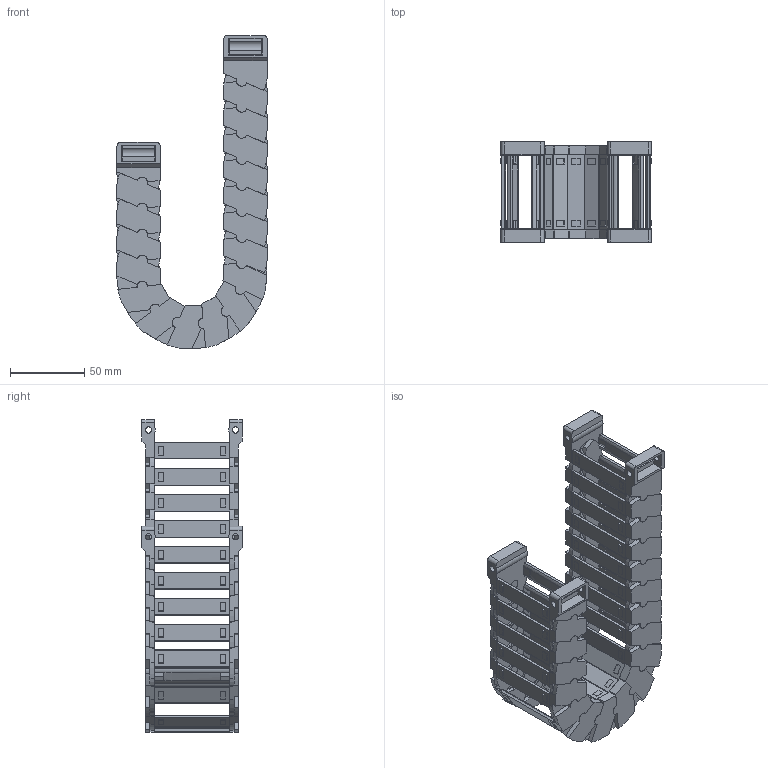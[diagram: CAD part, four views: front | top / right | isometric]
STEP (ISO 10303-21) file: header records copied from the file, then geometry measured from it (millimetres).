
FILE_DESCRIPTION(/* description */ (''),/* implementation_level */ '2;1');
FILE_NAME(/* name */ 'JY22-50-R35.stp',/* time_stamp */ '2026-06-20T14:47:17+08:00',/* author */ (''),/* organization */ (''),/* preprocessor_version */ 'ST-DEVELOPER v19.4',/* originating_system */ 'SIEMENS PLM Software NX2306.5001',/* authorisation */ '');
FILE_SCHEMA (('AP203_CONFIGURATION_CONTROLLED_3D_DESIGN_OF_MECHANICAL_PARTS_AND_ASSEMBLIES_MIM_LF { 1 0 10303 403 2 1 2}'));
Products named in the file (1): 简易图纸_objects
Bounding box: 100.88 x 67.5 x 210.31 mm (x, y, z)
Volume: 163731.6 mm3; surface area: 146599.5 mm2
Topology: 19 solids, 19 shells, 3140 faces, 10162 edges, 6766 vertices
Faces by surface type: plane 2354, cylinder 502, cone 144, bspline 140
Full cylindrical faces by diameter (mm): 4.2 x8, 7 x36, 7.1 x36
Entity records: 116691 total; most frequent: CARTESIAN_POINT 27541, ORIENTED_EDGE 20004, DIRECTION 17282, EDGE_CURVE 10002, LINE 6856, VECTOR 6856, VERTEX_POINT 6686, AXIS2_PLACEMENT_3D 5213
